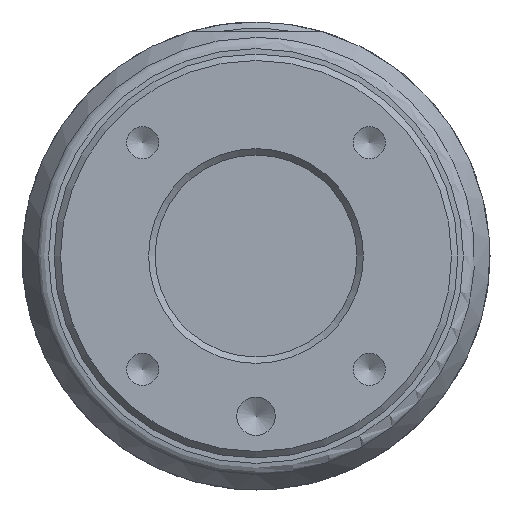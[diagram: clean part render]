
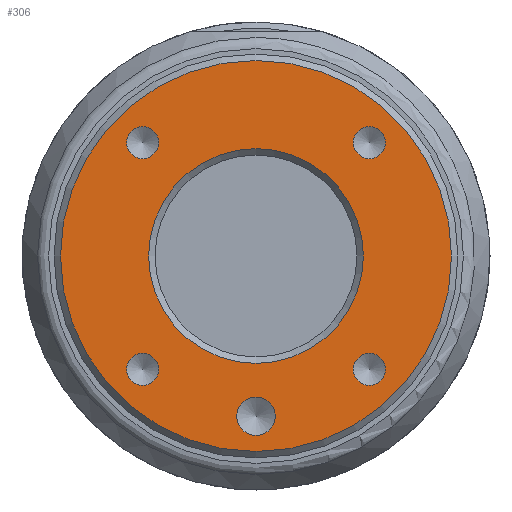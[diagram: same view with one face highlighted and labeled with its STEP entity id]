
A CAD part, front view. The second image highlights one B-rep face of the part: STEP entity #306.
In plain terms, the highlighted planar face has unit normal (0, -1, 0).
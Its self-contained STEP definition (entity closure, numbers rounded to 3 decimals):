
#5 = DIRECTION ( 'NONE',  ( 0., 0., -1. ) ) ;
#24 = DIRECTION ( 'NONE',  ( 0., -1., 0. ) ) ;
#54 = CIRCLE ( 'NONE', #1314, 2.5 ) ;
#144 = EDGE_CURVE ( 'NONE', #1653, #1653, #1125, .T. ) ;
#170 = EDGE_CURVE ( 'NONE', #1918, #1918, #2000, .T. ) ;
#208 = EDGE_CURVE ( 'NONE', #2978, #2978, #840, .T. ) ;
#296 = DIRECTION ( 'NONE',  ( 0., 0., 1. ) ) ;
#306 = ADVANCED_FACE ( 'NONE', ( #2244, #1734, #1420, #3087, #3340, #2535, #1456 ), #612, .F. ) ;
#345 = DIRECTION ( 'NONE',  ( 0., -1., 0. ) ) ;
#362 = DIRECTION ( 'NONE',  ( 0., -1., 0. ) ) ;
#479 = ORIENTED_EDGE ( 'NONE', *, *, #144, .F. ) ;
#503 = CARTESIAN_POINT ( 'NONE',  ( 0., 0., 30.5 ) ) ;
#564 = ORIENTED_EDGE ( 'NONE', *, *, #1806, .F. ) ;
#612 = PLANE ( 'NONE',  #1528 ) ;
#640 = CARTESIAN_POINT ( 'NONE',  ( 17.678, 0., 15.178 ) ) ;
#642 = EDGE_LOOP ( 'NONE', ( #3275 ) ) ;
#678 = EDGE_LOOP ( 'NONE', ( #564 ) ) ;
#747 = EDGE_LOOP ( 'NONE', ( #2341 ) ) ;
#774 = DIRECTION ( 'NONE',  ( 0., 0., -1. ) ) ;
#830 = DIRECTION ( 'NONE',  ( 0., 1., 0. ) ) ;
#840 = CIRCLE ( 'NONE', #2747, 30.5 ) ;
#854 = DIRECTION ( 'NONE',  ( 0., 1., 0. ) ) ;
#994 = CARTESIAN_POINT ( 'NONE',  ( 17.678, 0., 17.678 ) ) ;
#1021 = DIRECTION ( 'NONE',  ( 0., 0., -1. ) ) ;
#1125 = CIRCLE ( 'NONE', #3147, 3. ) ;
#1134 = DIRECTION ( 'NONE',  ( 0., 0., -1. ) ) ;
#1150 = DIRECTION ( 'NONE',  ( 0., 0., 1. ) ) ;
#1194 = VERTEX_POINT ( 'NONE', #640 ) ;
#1314 = AXIS2_PLACEMENT_3D ( 'NONE', #2198, #1960, #1021 ) ;
#1403 = DIRECTION ( 'NONE',  ( 0., 0., 1. ) ) ;
#1418 = ORIENTED_EDGE ( 'NONE', *, *, #3106, .F. ) ;
#1420 = FACE_OUTER_BOUND ( 'NONE', #2381, .T. ) ;
#1456 = FACE_BOUND ( 'NONE', #3433, .T. ) ;
#1462 = ORIENTED_EDGE ( 'NONE', *, *, #3169, .T. ) ;
#1528 = AXIS2_PLACEMENT_3D ( 'NONE', #2209, #830, #1150 ) ;
#1541 = VERTEX_POINT ( 'NONE', #2359 ) ;
#1653 = VERTEX_POINT ( 'NONE', #1673 ) ;
#1673 = CARTESIAN_POINT ( 'NONE',  ( 0., 0., -28. ) ) ;
#1734 = FACE_BOUND ( 'NONE', #1929, .T. ) ;
#1806 = EDGE_CURVE ( 'NONE', #1194, #1194, #2758, .T. ) ;
#1841 = VERTEX_POINT ( 'NONE', #2093 ) ;
#1860 = VERTEX_POINT ( 'NONE', #2111 ) ;
#1867 = DIRECTION ( 'NONE',  ( 0., -1., 0. ) ) ;
#1918 = VERTEX_POINT ( 'NONE', #2473 ) ;
#1928 = CARTESIAN_POINT ( 'NONE',  ( -17.678, 0., -17.678 ) ) ;
#1929 = EDGE_LOOP ( 'NONE', ( #1462 ) ) ;
#1960 = DIRECTION ( 'NONE',  ( 0., -1., 0. ) ) ;
#2000 = CIRCLE ( 'NONE', #2457, 2.5 ) ;
#2010 = AXIS2_PLACEMENT_3D ( 'NONE', #994, #1867, #774 ) ;
#2035 = ORIENTED_EDGE ( 'NONE', *, *, #208, .T. ) ;
#2093 = CARTESIAN_POINT ( 'NONE',  ( -17.678, 0., -20.178 ) ) ;
#2111 = CARTESIAN_POINT ( 'NONE',  ( 0., 0., 16.75 ) ) ;
#2177 = CARTESIAN_POINT ( 'NONE',  ( 0., 0., -25. ) ) ;
#2198 = CARTESIAN_POINT ( 'NONE',  ( -17.678, 0., 17.678 ) ) ;
#2209 = CARTESIAN_POINT ( 'NONE',  ( -15.75, 0., 0. ) ) ;
#2244 = FACE_BOUND ( 'NONE', #3057, .T. ) ;
#2341 = ORIENTED_EDGE ( 'NONE', *, *, #170, .F. ) ;
#2358 = AXIS2_PLACEMENT_3D ( 'NONE', #1928, #24, #3072 ) ;
#2359 = CARTESIAN_POINT ( 'NONE',  ( -17.678, 0., 15.178 ) ) ;
#2381 = EDGE_LOOP ( 'NONE', ( #2035 ) ) ;
#2421 = AXIS2_PLACEMENT_3D ( 'NONE', #3006, #854, #296 ) ;
#2457 = AXIS2_PLACEMENT_3D ( 'NONE', #2817, #362, #1134 ) ;
#2473 = CARTESIAN_POINT ( 'NONE',  ( 17.678, 0., -20.178 ) ) ;
#2480 = DIRECTION ( 'NONE',  ( 0., -1., 0. ) ) ;
#2535 = FACE_BOUND ( 'NONE', #678, .T. ) ;
#2552 = CARTESIAN_POINT ( 'NONE',  ( 0., 0., 0. ) ) ;
#2747 = AXIS2_PLACEMENT_3D ( 'NONE', #2552, #345, #1403 ) ;
#2758 = CIRCLE ( 'NONE', #2010, 2.5 ) ;
#2817 = CARTESIAN_POINT ( 'NONE',  ( 17.678, 0., -17.678 ) ) ;
#2978 = VERTEX_POINT ( 'NONE', #503 ) ;
#2994 = CIRCLE ( 'NONE', #2421, 16.75 ) ;
#3006 = CARTESIAN_POINT ( 'NONE',  ( 0., 0., 0. ) ) ;
#3057 = EDGE_LOOP ( 'NONE', ( #479 ) ) ;
#3072 = DIRECTION ( 'NONE',  ( 0., 0., -1. ) ) ;
#3087 = FACE_BOUND ( 'NONE', #642, .T. ) ;
#3106 = EDGE_CURVE ( 'NONE', #1541, #1541, #54, .T. ) ;
#3147 = AXIS2_PLACEMENT_3D ( 'NONE', #2177, #2480, #5 ) ;
#3169 = EDGE_CURVE ( 'NONE', #1860, #1860, #2994, .T. ) ;
#3218 = EDGE_CURVE ( 'NONE', #1841, #1841, #3439, .T. ) ;
#3275 = ORIENTED_EDGE ( 'NONE', *, *, #3218, .F. ) ;
#3340 = FACE_BOUND ( 'NONE', #747, .T. ) ;
#3433 = EDGE_LOOP ( 'NONE', ( #1418 ) ) ;
#3439 = CIRCLE ( 'NONE', #2358, 2.5 ) ;
